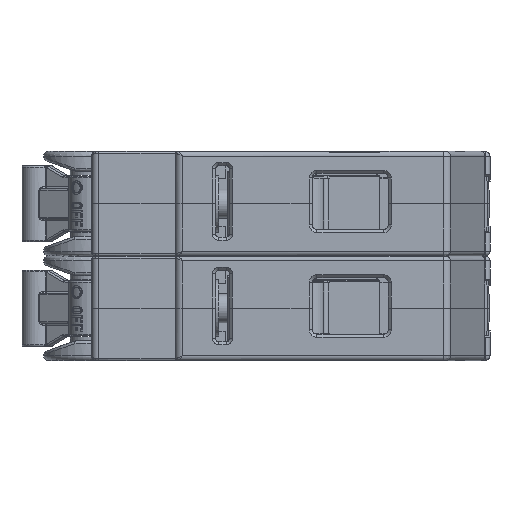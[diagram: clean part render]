
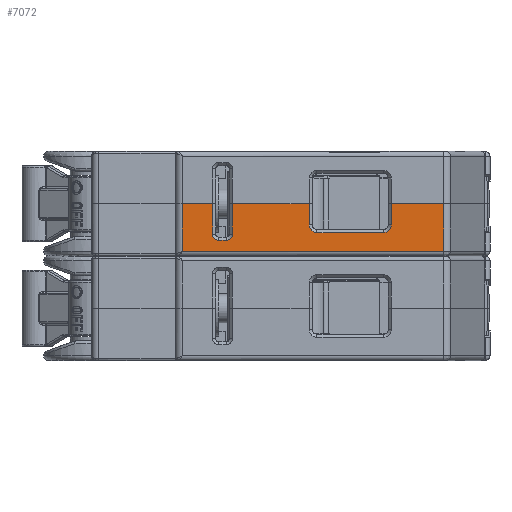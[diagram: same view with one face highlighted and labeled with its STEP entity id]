
A CAD part, left-side view. The second image highlights one B-rep face of the part: STEP entity #7072.
In plain terms, the highlighted planar face has unit normal (-1, 0, 0).
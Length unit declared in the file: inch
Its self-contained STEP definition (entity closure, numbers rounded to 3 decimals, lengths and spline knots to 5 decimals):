
#3027=CARTESIAN_POINT('',(-1.73,-1.57461,-0.313));
#3028=VERTEX_POINT('',#3027);
#3053=CARTESIAN_POINT('',(-1.73,0.143,-0.313));
#3054=VERTEX_POINT('',#3053);
#3055=CARTESIAN_POINT('',(-1.73,-1.57461,-0.313));
#3056=DIRECTION('',(0.0,1.0,0.0));
#3057=VECTOR('',#3056,1.71761);
#3058=LINE('',#3055,#3057);
#3059=EDGE_CURVE('',#3028,#3054,#3058,.T.);
#6929=CARTESIAN_POINT('',(-1.73,-1.57461,0.0));
#6930=VERTEX_POINT('',#6929);
#6938=CARTESIAN_POINT('',(-1.73,-1.57461,-0.313));
#6939=DIRECTION('',(0.0,0.,1.0));
#6940=VECTOR('',#6939,0.313);
#6941=LINE('',#6938,#6940);
#6942=EDGE_CURVE('',#3028,#6930,#6941,.T.);
#6949=CARTESIAN_POINT('',(-1.73,0.19,0.0));
#6950=DIRECTION('',(-1.0,0.0,0.0));
#6951=DIRECTION('',(0.0,0.0,1.0));
#6952=AXIS2_PLACEMENT_3D('',#6949,#6950,#6951);
#6953=PLANE('',#6952);
#6954=CARTESIAN_POINT('',(-1.73,-0.691,-0.139));
#6955=VERTEX_POINT('',#6954);
#6956=CARTESIAN_POINT('',(-1.73,-0.691,0.0));
#6957=VERTEX_POINT('',#6956);
#6958=CARTESIAN_POINT('',(-1.73,-0.691,-0.139));
#6959=DIRECTION('',(0.0,0.0,1.0));
#6960=VECTOR('',#6959,0.139);
#6961=LINE('',#6958,#6960);
#6962=EDGE_CURVE('',#6955,#6957,#6961,.T.);
#6963=ORIENTED_EDGE('',*,*,#6962,.T.);
#6964=CARTESIAN_POINT('',(-1.73,-0.186,0.0));
#6965=VERTEX_POINT('',#6964);
#6966=CARTESIAN_POINT('',(-1.73,-0.691,0.0));
#6967=DIRECTION('',(0.0,1.0,0.0));
#6968=VECTOR('',#6967,0.505);
#6969=LINE('',#6966,#6968);
#6970=EDGE_CURVE('',#6957,#6965,#6969,.T.);
#6971=ORIENTED_EDGE('',*,*,#6970,.T.);
#6972=CARTESIAN_POINT('',(-1.73,-0.186,-0.2));
#6973=VERTEX_POINT('',#6972);
#6974=CARTESIAN_POINT('',(-1.73,-0.186,0.0));
#6975=DIRECTION('',(0.0,0.0,-1.0));
#6976=VECTOR('',#6975,0.2);
#6977=LINE('',#6974,#6976);
#6978=EDGE_CURVE('',#6965,#6973,#6977,.T.);
#6979=ORIENTED_EDGE('',*,*,#6978,.T.);
#6980=CARTESIAN_POINT('',(-1.73,-0.146,-0.24));
#6981=VERTEX_POINT('',#6980);
#6982=CARTESIAN_POINT('',(-1.73,-0.146,-0.2));
#6983=DIRECTION('',(1.0,0.0,0.0));
#6984=DIRECTION('',(0.0,0.0,-1.0));
#6985=AXIS2_PLACEMENT_3D('',#6982,#6983,#6984);
#6986=CIRCLE('',#6985,0.04);
#6987=EDGE_CURVE('',#6973,#6981,#6986,.T.);
#6988=ORIENTED_EDGE('',*,*,#6987,.T.);
#6989=CARTESIAN_POINT('',(-1.73,-0.096,-0.24));
#6990=VERTEX_POINT('',#6989);
#6991=CARTESIAN_POINT('',(-1.73,-0.146,-0.24));
#6992=DIRECTION('',(0.0,1.0,0.0));
#6993=VECTOR('',#6992,0.05);
#6994=LINE('',#6991,#6993);
#6995=EDGE_CURVE('',#6981,#6990,#6994,.T.);
#6996=ORIENTED_EDGE('',*,*,#6995,.T.);
#6997=CARTESIAN_POINT('',(-1.73,-0.056,-0.2));
#6998=VERTEX_POINT('',#6997);
#6999=CARTESIAN_POINT('',(-1.73,-0.096,-0.2));
#7000=DIRECTION('',(1.0,0.0,0.0));
#7001=DIRECTION('',(0.0,0.0,-1.0));
#7002=AXIS2_PLACEMENT_3D('',#6999,#7000,#7001);
#7003=CIRCLE('',#7002,0.04);
#7004=EDGE_CURVE('',#6990,#6998,#7003,.T.);
#7005=ORIENTED_EDGE('',*,*,#7004,.T.);
#7006=CARTESIAN_POINT('',(-1.73,-0.056,0.0));
#7007=VERTEX_POINT('',#7006);
#7008=CARTESIAN_POINT('',(-1.73,-0.056,-0.2));
#7009=DIRECTION('',(0.0,0.0,1.0));
#7010=VECTOR('',#7009,0.2);
#7011=LINE('',#7008,#7010);
#7012=EDGE_CURVE('',#6998,#7007,#7011,.T.);
#7013=ORIENTED_EDGE('',*,*,#7012,.T.);
#7014=CARTESIAN_POINT('',(-1.73,0.143,0.0));
#7015=VERTEX_POINT('',#7014);
#7016=CARTESIAN_POINT('',(-1.73,-0.056,0.0));
#7017=DIRECTION('',(0.0,1.0,0.0));
#7018=VECTOR('',#7017,0.199);
#7019=LINE('',#7016,#7018);
#7020=EDGE_CURVE('',#7007,#7015,#7019,.T.);
#7021=ORIENTED_EDGE('',*,*,#7020,.T.);
#7022=CARTESIAN_POINT('',(-1.73,0.143,0.0));
#7023=DIRECTION('',(0.0,0.0,-1.0));
#7024=VECTOR('',#7023,0.313);
#7025=LINE('',#7022,#7024);
#7026=EDGE_CURVE('',#7015,#3054,#7025,.T.);
#7027=ORIENTED_EDGE('',*,*,#7026,.T.);
#7028=ORIENTED_EDGE('',*,*,#3059,.F.);
#7029=ORIENTED_EDGE('',*,*,#6942,.T.);
#7030=CARTESIAN_POINT('',(-1.73,-1.231,0.0));
#7031=VERTEX_POINT('',#7030);
#7032=CARTESIAN_POINT('',(-1.73,-1.57461,0.0));
#7033=DIRECTION('',(0.0,1.0,0.0));
#7034=VECTOR('',#7033,0.34361);
#7035=LINE('',#7032,#7034);
#7036=EDGE_CURVE('',#6930,#7031,#7035,.T.);
#7037=ORIENTED_EDGE('',*,*,#7036,.T.);
#7038=CARTESIAN_POINT('',(-1.73,-1.231,-0.139));
#7039=VERTEX_POINT('',#7038);
#7040=CARTESIAN_POINT('',(-1.73,-1.231,0.0));
#7041=DIRECTION('',(0.0,0.0,-1.0));
#7042=VECTOR('',#7041,0.139);
#7043=LINE('',#7040,#7042);
#7044=EDGE_CURVE('',#7031,#7039,#7043,.T.);
#7045=ORIENTED_EDGE('',*,*,#7044,.T.);
#7046=CARTESIAN_POINT('',(-1.73,-1.18,-0.19));
#7047=VERTEX_POINT('',#7046);
#7048=CARTESIAN_POINT('',(-1.73,-1.18,-0.139));
#7049=DIRECTION('',(1.0,0.0,0.0));
#7050=DIRECTION('',(0.0,0.0,-1.0));
#7051=AXIS2_PLACEMENT_3D('',#7048,#7049,#7050);
#7052=CIRCLE('',#7051,0.051);
#7053=EDGE_CURVE('',#7039,#7047,#7052,.T.);
#7054=ORIENTED_EDGE('',*,*,#7053,.T.);
#7055=CARTESIAN_POINT('',(-1.73,-0.742,-0.19));
#7056=VERTEX_POINT('',#7055);
#7057=CARTESIAN_POINT('',(-1.73,-1.18,-0.19));
#7058=DIRECTION('',(0.0,1.0,0.0));
#7059=VECTOR('',#7058,0.438);
#7060=LINE('',#7057,#7059);
#7061=EDGE_CURVE('',#7047,#7056,#7060,.T.);
#7062=ORIENTED_EDGE('',*,*,#7061,.T.);
#7063=CARTESIAN_POINT('',(-1.73,-0.742,-0.139));
#7064=DIRECTION('',(1.0,0.0,0.0));
#7065=DIRECTION('',(0.0,0.0,-1.0));
#7066=AXIS2_PLACEMENT_3D('',#7063,#7064,#7065);
#7067=CIRCLE('',#7066,0.051);
#7068=EDGE_CURVE('',#7056,#6955,#7067,.T.);
#7069=ORIENTED_EDGE('',*,*,#7068,.T.);
#7070=EDGE_LOOP('',(#6963,#6971,#6979,#6988,#6996,#7005,#7013,#7021,#7027,#7028,#7029,#7037,#7045,#7054,#7062,#7069));
#7071=FACE_OUTER_BOUND('',#7070,.T.);
#7072=ADVANCED_FACE('',(#7071),#6953,.T.);
